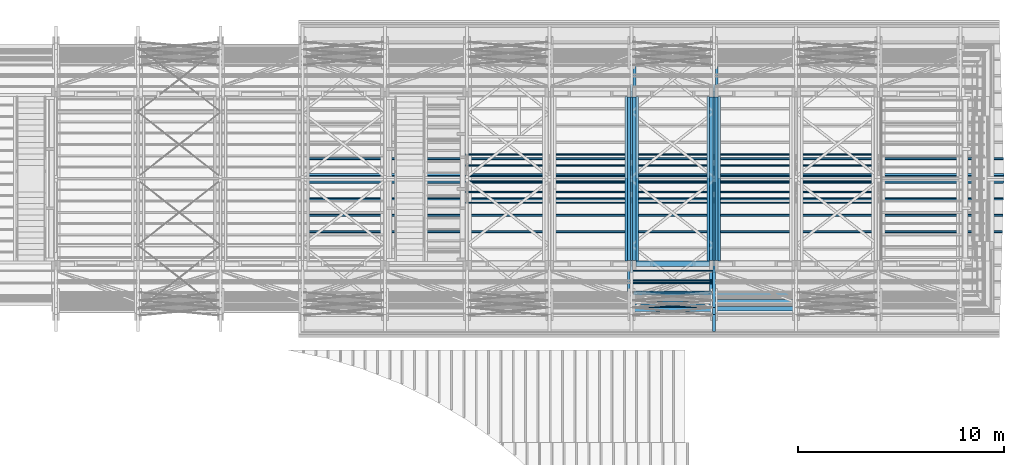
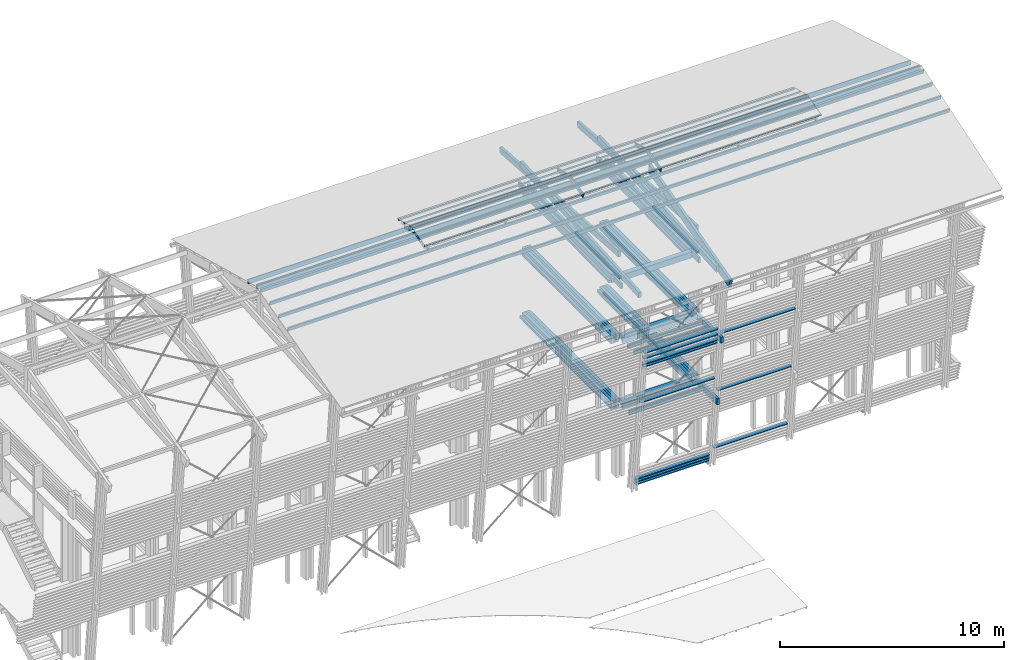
# One storey, part 18 of 48: 76 beams.
"""IFC2X3 building model written with IfcOpenShell, lengths in metres."""

import ifcopenshell
import ifcopenshell.guid

model = None  # the IFC model being written
_history = None  # IfcOwnerHistory: only IFC2X3 demands one
_inside = {}  # id of a spatial element -> (the spatial element, [elements in it])
_under = {}  # id of a project, library or spatial element -> (it, [spatial elements below it])
_declared = {}  # id of a project -> (the project, [libraries it declares])
_typed = {}  # id of a type object -> (the type object, [elements of that type])
_made_of = {}  # id of a material, layer set ... -> (it, [elements and type objects made of it])


def new_model(schema):
    """Start an empty IFC model of exactly this schema.

    Asked for "IFC4X3", IfcOpenShell would pick the latest addendum, in which some entities
    have other attributes; the version numbers below select the first issue.
    IFC2X3 requires an IfcOwnerHistory on every rooted entity: one is made here for all.
    """
    global model, _history
    if schema == "IFC4X3":
        model = ifcopenshell.file(schema_version=(4, 3, 0, 0))
    else:
        model = ifcopenshell.file(schema=schema)
    _inside.clear()
    _under.clear()
    _declared.clear()
    _typed.clear()
    _made_of.clear()
    _history = None
    if model.schema == "IFC2X3":
        org = make("IfcOrganization", Name="unknown")
        user = make(
            "IfcPersonAndOrganization",
            ThePerson=make("IfcPerson", FamilyName="unknown"),
            TheOrganization=org,
        )
        app = make(
            "IfcApplication",
            ApplicationDeveloper=org,
            Version="unknown",
            ApplicationFullName="unknown",
            ApplicationIdentifier="unknown",
        )
        _history = make(
            "IfcOwnerHistory",
            OwningUser=user,
            OwningApplication=app,
            ChangeAction="ADDED",
            CreationDate=0,
        )
    return model


def make(cls, **values):
    """One entity of the class cls with the attributes given. An attribute that is None is left unset."""
    return model.create_entity(
        cls, **{name: value for name, value in values.items() if value is not None}
    )


def rooted(cls, **values):
    """An entity with a GlobalId (a new one), such as an element, a storey or a relation."""
    return make(cls, GlobalId=ifcopenshell.guid.new(), OwnerHistory=_history, **values)


def si_unit(unit_type, name, prefix=None):
    """IfcSIUnit, for example si_unit("LENGTHUNIT", "METRE", prefix="MILLI")."""
    return make("IfcSIUnit", UnitType=unit_type, Prefix=prefix, Name=name)


def assignment(units):
    """IfcUnitAssignment: the units of a project."""
    return None if units is None else make("IfcUnitAssignment", Units=units)


def point(xyz):
    """IfcCartesianPoint."""
    return None if xyz is None else make("IfcCartesianPoint", Coordinates=xyz)


def direction(xyz):
    """IfcDirection."""
    return None if xyz is None else make("IfcDirection", DirectionRatios=xyz)


def frame(location, z_axis=None, x_axis=None):
    """IfcAxis2Placement3D, a coordinate frame: its origin and axes. An axis left out is left unset."""
    return make(
        "IfcAxis2Placement3D",
        Location=point(location),
        Axis=direction(z_axis),
        RefDirection=direction(x_axis),
    )


def origin_with_axes():
    """The frame at (0, 0, 0) with the z axis (0, 0, 1) and the x axis (1, 0, 0) written out."""
    return frame((0.0, 0.0, 0.0), z_axis=(0.0, 0.0, 1.0), x_axis=(1.0, 0.0, 0.0))


def place(relative_to, where):
    """IfcLocalPlacement: puts the frame where relative to a parent placement (None: the world)."""
    return make(
        "IfcLocalPlacement", PlacementRelTo=relative_to, RelativePlacement=where
    )


def context(
    kind, dimensions, precision=None, world=None, true_north=None, identifier=None
):
    """IfcGeometricRepresentationContext, for example the 3D "Model" context."""
    return make(
        "IfcGeometricRepresentationContext",
        ContextIdentifier=identifier,
        ContextType=kind,
        CoordinateSpaceDimension=dimensions,
        Precision=precision,
        WorldCoordinateSystem=world,
        TrueNorth=true_north,
    )


def subcontext(parent, identifier, kind, view, scale=None):
    """IfcGeometricRepresentationSubContext, for example "Body" below "Model"."""
    return make(
        "IfcGeometricRepresentationSubContext",
        ContextIdentifier=identifier,
        ContextType=kind,
        ParentContext=parent,
        TargetScale=scale,
        TargetView=view,
    )


def project(units=None, contexts=None):
    """IfcProject with its units and contexts."""
    return rooted(
        "IfcProject",
        Name="project",
        RepresentationContexts=contexts,
        UnitsInContext=assignment(units),
    )


def spatial(cls, under=None, at=None, **own):
    """A site, building, storey or space (cls), placed at a placement, below another one or the project."""
    s = rooted(cls, ObjectPlacement=at, **own)
    if under is not None:
        _under.setdefault(under.id(), (under, []))[1].append(s)
    return s


def faces_of(points, faces, orient=None, outer=None):
    """IfcFace entities. A face is a list of loops; a loop is a list of indices into points, from 0.

    orient and outer hold one flag for each loop. By default every Orientation is true, the
    first loop of a face is its IfcFaceOuterBound and the others are IfcFaceBound.
    """
    made = []
    for i, loops in enumerate(faces):
        bounds = []
        for j, loop in enumerate(loops):
            is_outer = j == 0 if outer is None else outer[i][j]
            bounds.append(
                make(
                    "IfcFaceOuterBound" if is_outer else "IfcFaceBound",
                    Bound=make("IfcPolyLoop", Polygon=[points[k] for k in loop]),
                    Orientation=True if orient is None else orient[i][j],
                )
            )
        made.append(make("IfcFace", Bounds=bounds))
    return made


def faceted_brep(points, faces, orient=None, outer=None, voids=None):
    """IfcFacetedBrep: a solid bounded by flat faces; with voids (closed shells), ...WithVoids."""
    shared = [point(p) for p in points]
    hull = make("IfcClosedShell", CfsFaces=faces_of(shared, faces, orient, outer))
    if voids is None:
        return make("IfcFacetedBrep", Outer=hull)
    return make(
        "IfcFacetedBrepWithVoids",
        Outer=hull,
        Voids=[
            make(cls, CfsFaces=faces_of(shared, fs, o, b)) for cls, fs, o, b in voids
        ],
    )


def shape(context_of_items, identifier, shape_type, items):
    """IfcShapeRepresentation: the items that make up one representation, for example the "Body"."""
    return make(
        "IfcShapeRepresentation",
        ContextOfItems=context_of_items,
        RepresentationIdentifier=identifier,
        RepresentationType=shape_type,
        Items=items,
    )


def material(Name=None, Category=None):
    """IfcMaterial."""
    return make("IfcMaterial", Name=Name, Category=Category)


def made_of(thing, what):
    """Note that an element or type object is made of a material, layer set ...; save() writes the relation."""
    if what is not None:
        _made_of.setdefault(what.id(), (what, []))[1].append(thing)
    return thing


def element(
    cls,
    number,
    at=None,
    inside=None,
    cuts=None,
    type_object=None,
    material=None,
    context=None,
    identifier="Body",
    shape_type=None,
    held_by="IfcProductDefinitionShape",
    body=None,
    shapes=None,
    **own,
):
    """One element of the class cls, such as IfcWall. Its Tag is "e" and its number.

    at: its placement. inside: the storey or other place that contains it. cuts: it is an
    opening in that element (IfcRelVoidsElement). A single representation is given by context,
    identifier, shape_type and body (its items); several are given by shapes. held_by: the class
    of the entity that holds the representations. save() writes the other relations.
    """
    e = rooted(cls, Tag="e%d" % number, ObjectPlacement=at, **own)
    if body is not None:
        shapes = [shape(context, identifier, shape_type, body)]
    if shapes is not None:
        e.Representation = make(held_by, Representations=shapes)
    if inside is not None:
        _inside.setdefault(inside.id(), (inside, []))[1].append(e)
    if cuts is not None:
        rooted(
            "IfcRelVoidsElement", RelatingBuildingElement=cuts, RelatedOpeningElement=e
        )
    if type_object is not None:
        _typed.setdefault(type_object.id(), (type_object, []))[1].append(e)
    return made_of(e, material)


def aggregate(whole, parts):
    """IfcRelAggregates: a whole, such as a stair, and the parts it consists of."""
    return rooted("IfcRelAggregates", RelatingObject=whole, RelatedObjects=parts)


def save(model, path):
    """Write the relations noted so far, then the file.

    IfcRelAggregates (storeys below a building ...), IfcRelContainedInSpatialStructure (elements
    in a storey), IfcRelDefinesByType, IfcRelAssociatesMaterial and IfcRelDeclares: one each for
    every whole, place, type object, material and project.
    """
    for whole, parts in _under.values():
        aggregate(whole, parts)
    for where, things in _inside.values():
        rooted(
            "IfcRelContainedInSpatialStructure",
            RelatedElements=things,
            RelatingStructure=where,
        )
    for kind, things in _typed.values():
        rooted("IfcRelDefinesByType", RelatedObjects=things, RelatingType=kind)
    for what, things in _made_of.values():
        rooted("IfcRelAssociatesMaterial", RelatedObjects=things, RelatingMaterial=what)
    for by, libraries in _declared.values():
        rooted("IfcRelDeclares", RelatingContext=by, RelatedDefinitions=libraries)
    model.write(path)


model = new_model("IFC2X3")

# Units and contexts
model_context = context("Model", 3, precision=1e-06, world=origin_with_axes(), true_north=direction((0.0, 1.0, 0.0)))
body_context = subcontext(model_context, "Body", "Model", "MODEL_VIEW")
ifc_project = project(units=[si_unit("LENGTHUNIT", "METRE"), si_unit("AREAUNIT", "SQUARE_METRE"), si_unit("VOLUMEUNIT", "CUBIC_METRE"), si_unit("PLANEANGLEUNIT", "RADIAN")], contexts=[model_context])

# Site, building, storey
site_placement = place(None, origin_with_axes())
site = spatial("IfcSite", under=ifc_project, at=site_placement, CompositionType="ELEMENT")
building_placement = place(site_placement, origin_with_axes())
building = spatial("IfcBuilding", under=site, at=building_placement, Name="Building 1", CompositionType="ELEMENT")
storey_placement = place(building_placement, origin_with_axes())
storey = spatial("IfcBuildingStorey", under=building, at=storey_placement, Name="Storey 1", CompositionType="ELEMENT", Elevation=0.0)

# Beams
ifc_material_1 = material(Name="GL28h")
beam_1_placement = place(storey_placement, frame((57.4897437, -184.6264881, 10.77), z_axis=(0.0, 0.0, 1.0), x_axis=(0.0, -1.0, 0.0)))
element("IfcBeam", 1, at=beam_1_placement, inside=storey, material=ifc_material_1, Name="Sommier", context=body_context, shape_type="Brep", body=[
    faceted_brep([(9.1631634, 0.05, -0.15), (9.1631634, 0.05, 0.15), (9.1631634, -0.05, 0.15), (9.1631634, -0.05, -0.15), (0.0, 0.05, 0.15), (0.0, 0.05, -0.15), (0.0, -0.05, -0.15), (0.0, -0.05, 0.15)], [[[0, 1, 2, 3]], [[4, 5, 6, 7]], [[3, 6, 5, 0]], [[2, 7, 6, 3]], [[1, 4, 7, 2]], [[0, 5, 4, 1]]]),
])
beam_2_placement = place(storey_placement, frame((53.4897437, -190.3622807, 13.6093897), z_axis=(0.0, -0.258819, 0.9659258), x_axis=(0.0, 0.9659258, 0.258819)))
element("IfcBeam", 2, at=beam_2_placement, inside=storey, material=ifc_material_1, Name="Arbalétrier", context=body_context, shape_type="Brep", body=[
    faceted_brep([(0.0, -0.035, -0.11), (0.0, -0.035, 0.11), (0.0, 0.035, 0.11), (0.0, 0.035, -0.11), (1.2244015, -0.035, 0.11), (1.2244015, 0.035, 0.11), (1.1654527, -0.035, -0.11), (1.1654527, 0.035, -0.11)], [[[0, 1, 2, 3]], [[2, 1, 4, 5]], [[1, 0, 6, 4]], [[7, 5, 4, 6]], [[0, 3, 7, 6]], [[3, 2, 5, 7]]]),
])
beam_3_placement = place(storey_placement, frame((71.5219094, -191.7955114, 12.8318429), z_axis=(0.0, -0.258819, 0.9659258), x_axis=(-1.0, 0.0, 0.0)))
element("IfcBeam", 3, at=beam_3_placement, inside=storey, material=ifc_material_1, Name="pannes", context=body_context, shape_type="Brep", body=[
    faceted_brep([(0.0019346, 0.035, -0.11), (0.0, -0.035, -0.11), (0.0016292, -0.035, 0.11), (0.0035637, 0.035, 0.11), (34.1021657, -0.035, -0.11), (34.1021657, -0.035, 0.11), (34.1021657, 0.035, -0.11), (34.1021657, 0.035, 0.11)], [[[0, 1, 2, 3]], [[2, 1, 4, 5]], [[1, 0, 6, 4]], [[0, 3, 7, 6]], [[3, 2, 5, 7]], [[5, 4, 6, 7]]]),
])
beam_4_placement = place(storey_placement, frame((71.5449862, -190.9889633, 13.0479568), z_axis=(0.0, -0.258819, 0.9659258), x_axis=(-1.0, 0.0, 0.0)))
element("IfcBeam", 4, at=beam_4_placement, inside=storey, material=ifc_material_1, Name="pannes", context=body_context, shape_type="Brep", body=[
    faceted_brep([(0.0019346, 0.035, -0.11), (0.0, -0.035, -0.11), (0.0016292, -0.035, 0.11), (0.0035637, 0.035, 0.11), (34.1252425, -0.035, -0.11), (34.1252425, -0.035, 0.11), (34.1252425, 0.035, -0.11), (34.1252425, 0.035, 0.11)], [[[0, 1, 2, 3]], [[2, 1, 4, 5]], [[1, 0, 6, 4]], [[0, 3, 7, 6]], [[3, 2, 5, 7]], [[5, 4, 6, 7]]]),
])
beam_5_placement = place(storey_placement, frame((71.5680629, -190.1824153, 13.2640707), z_axis=(0.0, -0.258819, 0.9659258), x_axis=(-1.0, 0.0, 0.0)))
element("IfcBeam", 5, at=beam_5_placement, inside=storey, material=ifc_material_1, Name="pannes", context=body_context, shape_type="Brep", body=[
    faceted_brep([(0.0019346, 0.035, -0.11), (0.0, -0.035, -0.11), (0.0016292, -0.035, 0.11), (0.0035637, 0.035, 0.11), (34.1483192, -0.035, -0.11), (34.1483192, -0.035, 0.11), (34.1483192, 0.035, -0.11), (34.1483192, 0.035, 0.11)], [[[0, 1, 2, 3]], [[2, 1, 4, 5]], [[1, 0, 6, 4]], [[0, 3, 7, 6]], [[3, 2, 5, 7]], [[5, 4, 6, 7]]]),
])
for number, where, z_axis, x_axis in (
    (6, (45.2797441, -190.376197, 13.7609523), (0.0, -0.258819, 0.9659258), (1.0, 0.0, 0.0)),
    (7, (45.2797441, -189.3391633, 14.0388246), (0.0, -0.258819, 0.9659258), (1.0, 0.0, 0.0)),
):
    element("IfcBeam", number, at=place(storey_placement, frame(where, z_axis=z_axis, x_axis=x_axis)), inside=storey, material=ifc_material_1, Name="carrelet", context=body_context, shape_type="Brep", body=[
        faceted_brep([(20.42, -0.025, -0.04), (20.42, -0.025, 0.04), (0.0, -0.025, 0.04), (0.0, -0.025, -0.04), (20.42, 0.025, -0.04), (0.0, 0.025, -0.04), (20.42, 0.025, 0.04), (0.0, 0.025, 0.04)], [[[0, 1, 2, 3]], [[4, 0, 3, 5]], [[6, 4, 5, 7]], [[1, 6, 7, 2]], [[1, 0, 4, 6]], [[2, 7, 5, 3]]]),
    ])
beam_6_placement = place(storey_placement, frame((45.2797441, -188.5584594, 13.8998884), z_axis=(0.0, 0.258819, 0.9659258), x_axis=(1.0, 0.0, 0.0)))
element("IfcBeam", 8, at=beam_6_placement, inside=storey, material=ifc_material_1, Name="carrelet", context=body_context, shape_type="Brep", body=[
    faceted_brep([(20.42, 0.025, 0.04), (20.42, 0.025, -0.04), (0.0, 0.025, -0.04), (0.0, 0.025, 0.04), (20.42, -0.025, -0.04), (0.0, -0.025, -0.04), (20.42, -0.025, 0.04), (0.0, -0.025, 0.04)], [[[0, 1, 2, 3]], [[1, 4, 5, 2]], [[4, 6, 7, 5]], [[6, 0, 3, 7]], [[1, 0, 6, 4]], [[7, 3, 2, 5]]]),
])
beam_7_placement = place(storey_placement, frame((71.5680629, -188.2337243, 13.2640707), z_axis=(0.0, 0.258819, 0.9659258), x_axis=(-1.0, 0.0, 0.0)))
element("IfcBeam", 9, at=beam_7_placement, inside=storey, material=ifc_material_1, Name="pannes", context=body_context, shape_type="Brep", body=[
    faceted_brep([(0.0016292, 0.035, 0.11), (0.0, 0.035, -0.11), (0.0019346, -0.035, -0.11), (0.0035637, -0.035, 0.11), (34.1483192, 0.035, -0.11), (34.1483192, -0.035, -0.11), (34.1483192, 0.035, 0.11), (34.1483192, -0.035, 0.11)], [[[0, 1, 2, 3]], [[2, 1, 4, 5]], [[1, 0, 6, 4]], [[0, 3, 7, 6]], [[3, 2, 5, 7]], [[4, 6, 7, 5]]]),
])
beam_8_placement = place(storey_placement, frame((71.6010389, -189.0395404, 13.4799884), z_axis=(0.0, 0.258819, 0.9659258), x_axis=(-1.0, 0.0, 0.0)))
element("IfcBeam", 10, at=beam_8_placement, inside=storey, material=ifc_material_1, Name="pannes", context=body_context, shape_type="Brep", body=[
    faceted_brep([(0.0016292, -0.045, -0.11), (0.0, -0.045, 0.11), (0.0024873, 0.045, 0.11), (0.0041165, 0.045, -0.11), (34.1812952, -0.045, 0.11), (34.1812952, 0.045, 0.11), (34.1812952, -0.045, -0.11), (34.1812952, 0.045, -0.11)], [[[0, 1, 2, 3]], [[2, 1, 4, 5]], [[1, 0, 6, 4]], [[0, 3, 7, 6]], [[3, 2, 5, 7]], [[5, 4, 6, 7]]]),
])
beam_9_placement = place(storey_placement, frame((71.5913951, -189.3765991, 13.4799884), z_axis=(0.0, -0.258819, 0.9659258), x_axis=(-1.0, 0.0, 0.0)))
element("IfcBeam", 11, at=beam_9_placement, inside=storey, material=ifc_material_1, Name="pannes", context=body_context, shape_type="Brep", body=[
    faceted_brep([(0.0, -0.045, -0.11), (0.0016292, -0.045, 0.11), (0.0041165, 0.045, 0.11), (0.0024873, 0.045, -0.11), (34.1716514, -0.045, 0.11), (34.1716514, 0.045, 0.11), (34.1716514, -0.045, -0.11), (34.1716514, 0.045, -0.11)], [[[0, 1, 2, 3]], [[2, 1, 4, 5]], [[1, 0, 6, 4]], [[0, 3, 7, 6]], [[3, 2, 5, 7]], [[5, 4, 6, 7]]]),
])
beam_10_placement = place(storey_placement, frame((45.2797441, -189.8576801, 13.8998884), z_axis=(0.0, -0.258819, 0.9659258), x_axis=(1.0, 0.0, 0.0)))
element("IfcBeam", 12, at=beam_10_placement, inside=storey, material=ifc_material_1, Name="carrelet", context=body_context, shape_type="Brep", body=[
    faceted_brep([(20.42, -0.025, -0.04), (20.42, -0.025, 0.04), (0.0, -0.025, 0.04), (0.0, -0.025, -0.04), (20.42, 0.025, -0.04), (0.0, 0.025, -0.04), (20.42, 0.025, 0.04), (0.0, 0.025, 0.04)], [[[0, 1, 2, 3]], [[4, 0, 3, 5]], [[6, 4, 5, 7]], [[1, 6, 7, 2]], [[1, 0, 4, 6]], [[2, 7, 5, 3]]]),
])
beam_11_placement = place(storey_placement, frame((57.2197437, -189.2071519, 10.8200184), z_axis=(0.0, -0.0149983, 0.9998875), x_axis=(0.0, -0.9998875, -0.0149983)))
element("IfcBeam", 13, at=beam_11_placement, inside=storey, material=ifc_material_1, Name="Sous-glace", context=body_context, shape_type="Brep", body=[
    faceted_brep([(4.0020498, -0.06, 0.06), (4.0038498, -0.06, -0.06), (4.0038498, 0.06, -0.06), (4.0020498, 0.06, 0.06), (0.0018, -0.06, -0.06), (0.0018, 0.06, -0.06), (0.0, -0.06, 0.06), (0.0, 0.06, 0.06)], [[[0, 1, 2, 3]], [[2, 1, 4, 5]], [[1, 0, 6, 4]], [[5, 4, 6, 7]], [[3, 2, 5, 7]], [[0, 3, 7, 6]]]),
])
beam_12_placement = place(storey_placement, frame((45.2797441, -188.0399426, 13.7609523), z_axis=(0.0, 0.258819, 0.9659258), x_axis=(1.0, 0.0, 0.0)))
element("IfcBeam", 14, at=beam_12_placement, inside=storey, material=ifc_material_1, Name="carrelet", context=body_context, shape_type="Brep", body=[
    faceted_brep([(20.42, 0.025, 0.04), (20.42, 0.025, -0.04), (0.0, 0.025, -0.04), (0.0, 0.025, 0.04), (20.42, -0.025, -0.04), (0.0, -0.025, -0.04), (20.42, -0.025, 0.04), (0.0, -0.025, 0.04)], [[[0, 1, 2, 3]], [[1, 4, 5, 2]], [[4, 6, 7, 5]], [[6, 0, 3, 7]], [[1, 0, 6, 4]], [[7, 3, 2, 5]]]),
])
for number, where, z_axis, x_axis, name in (
    (15, (57.7597437, -189.2071519, 10.820019), (0.0, -0.0149983, 0.9998875), (0.0, -0.9998875, -0.0149983), "Sous-glace"),
    (16, (53.2197437, -189.2071519, 10.820019), (0.0, -0.0149983, 0.9998875), (0.0, -0.9998875, -0.0149983), "Sous-glace"),
    (17, (53.7597437, -189.2071519, 10.8200195), (0.0, -0.0149983, 0.9998875), (0.0, -0.9998875, -0.0149983), "Sous-glace"),
):
    element("IfcBeam", number, at=place(storey_placement, frame(where, z_axis=z_axis, x_axis=x_axis)), inside=storey, material=ifc_material_1, Name=name, context=body_context, shape_type="Brep", body=[
        faceted_brep([(4.0020498, -0.06, 0.06), (4.0038498, -0.06, -0.06), (4.0038498, 0.06, -0.06), (4.0020498, 0.06, 0.06), (0.0018, -0.06, -0.06), (0.0018, 0.06, -0.06), (0.0, -0.06, 0.06), (0.0, 0.06, 0.06)], [[[0, 1, 2, 3]], [[2, 1, 4, 5]], [[1, 0, 6, 4]], [[5, 4, 6, 7]], [[3, 2, 5, 7]], [[0, 3, 7, 6]]]),
    ])
ifc_material_2 = material(Name="Moabi")
beam_13_placement = place(storey_placement, frame((61.3927441, -194.8264764, 1.1905332), z_axis=(0.0, 0.9945219, 0.1045285), x_axis=(-1.0, 0.0, 0.0)))
element("IfcBeam", 18, at=beam_13_placement, inside=storey, material=ifc_material_2, Name="garde corp", context=body_context, shape_type="Brep", body=[
    faceted_brep([(3.806, 0.02, -0.1), (3.806, -0.02, -0.1), (0.0, -0.02, -0.1), (0.0, 0.02, -0.1), (3.806, -0.02, 0.1), (0.0, -0.02, 0.1), (3.806, 0.02, 0.1), (0.0, 0.02, 0.1)], [[[0, 1, 2, 3]], [[1, 4, 5, 2]], [[4, 6, 7, 5]], [[6, 0, 3, 7]], [[1, 0, 6, 4]], [[7, 3, 2, 5]]]),
])
beam_14_placement = place(storey_placement, frame((61.3927439, -195.177692, 4.5321268), z_axis=(0.0, 0.9945219, 0.1045285), x_axis=(-1.0, 0.0, 0.0)))
element("IfcBeam", 19, at=beam_14_placement, inside=storey, material=ifc_material_2, Name="garde corp", context=body_context, shape_type="Brep", body=[
    faceted_brep([(3.8047069, 0.02, -0.1), (3.8047071, -0.02, -0.1), (0.0, -0.02, -0.1), (0.0, 0.02, -0.1), (3.8047069, -0.02, 0.1), (0.0, -0.02, 0.1), (3.8047071, 0.02, 0.1), (0.0, 0.02, 0.1)], [[[0, 1, 2, 3]], [[1, 4, 5, 2]], [[4, 6, 7, 5]], [[6, 0, 3, 7]], [[1, 0, 6, 4]], [[7, 3, 2, 5]]]),
])
beam_15_placement = place(storey_placement, frame((61.3927441, -195.5289077, 7.8737203), z_axis=(0.0, 0.9945219, 0.1045285), x_axis=(-1.0, 0.0, 0.0)))
element("IfcBeam", 20, at=beam_15_placement, inside=storey, material=ifc_material_2, Name="garde corp", context=body_context, shape_type="Brep", body=[
    faceted_brep([(3.806, 0.02, -0.1), (3.806, -0.02, -0.1), (0.0, -0.02, -0.1), (0.0, 0.02, -0.1), (3.806, -0.02, 0.1), (0.0, -0.02, 0.1), (3.806, 0.02, 0.1), (0.0, 0.02, 0.1)], [[[0, 1, 2, 3]], [[1, 4, 5, 2]], [[4, 6, 7, 5]], [[6, 0, 3, 7]], [[1, 0, 6, 4]], [[7, 3, 2, 5]]]),
])
beam_16_placement = place(storey_placement, frame((45.2797441, -189.0777892, 14.0388246), z_axis=(0.0, 0.258819, 0.9659258), x_axis=(1.0, 0.0, 0.0)))
element("IfcBeam", 21, at=beam_16_placement, inside=storey, material=ifc_material_1, Name="carrelet", context=body_context, shape_type="Brep", body=[
    faceted_brep([(20.42, 0.025, 0.04), (20.42, 0.025, -0.04), (0.0, 0.025, -0.04), (0.0, 0.025, 0.04), (20.42, -0.025, -0.04), (0.0, -0.025, -0.04), (20.42, -0.025, 0.04), (0.0, -0.025, 0.04)], [[[0, 1, 2, 3]], [[1, 4, 5, 2]], [[4, 6, 7, 5]], [[6, 0, 3, 7]], [[1, 0, 6, 4]], [[7, 3, 2, 5]]]),
])
beam_17_placement = place(storey_placement, frame((53.4897437, -184.6264881, 10.77), z_axis=(0.0, 0.0, 1.0), x_axis=(0.0, -1.0, 0.0)))
element("IfcBeam", 22, at=beam_17_placement, inside=storey, material=ifc_material_1, Name="Sommier", context=body_context, shape_type="Brep", body=[
    faceted_brep([(9.1631634, 0.05, -0.15), (9.1631634, 0.05, 0.15), (9.1631634, -0.05, 0.15), (9.1631634, -0.05, -0.15), (0.0, 0.05, 0.15), (0.0, 0.05, -0.15), (0.0, -0.05, -0.15), (0.0, -0.05, 0.15)], [[[0, 1, 2, 3]], [[4, 5, 6, 7]], [[3, 6, 5, 0]], [[2, 7, 6, 3]], [[1, 4, 7, 2]], [[0, 5, 4, 1]]]),
])
beam_18_placement = place(storey_placement, frame((57.3597437, -185.2264881, 10.87), z_axis=(0.0, 0.0, 1.0), x_axis=(0.0, -1.0, 0.0)))
element("IfcBeam", 23, at=beam_18_placement, inside=storey, material=ifc_material_1, Name="Sommier", context=body_context, shape_type="Brep", body=[
    faceted_brep([(7.9631634, 0.08, 0.23), (7.9631634, 0.08, -0.23), (0.0, 0.08, -0.23), (0.0, 0.08, 0.23), (0.0, -0.08, -0.23), (0.0, -0.08, 0.23), (7.9631634, -0.08, -0.23), (7.9631634, -0.08, 0.23)], [[[0, 1, 2, 3]], [[2, 4, 5, 3]], [[6, 7, 5, 4]], [[1, 6, 4, 2]], [[7, 6, 1, 0]], [[7, 0, 3, 5]]]),
])
beam_19_placement = place(storey_placement, frame((53.4897437, -185.2264881, 7.365), z_axis=(0.0, 0.0, 1.0), x_axis=(0.0, -1.0, 0.0)))
element("IfcBeam", 24, at=beam_19_placement, inside=storey, material=ifc_material_1, Name="Sommier", context=body_context, shape_type="Brep", body=[
    faceted_brep([(0.0, -0.05, -0.05), (0.0, -0.05, 0.05), (0.0, 0.05, 0.05), (0.0, 0.05, -0.05), (7.9631634, -0.05, 0.05), (7.9631634, 0.05, 0.05), (7.9631634, -0.05, -0.05), (7.9631634, 0.05, -0.05)], [[[0, 1, 2, 3]], [[2, 1, 4, 5]], [[1, 0, 6, 4]], [[5, 4, 6, 7]], [[3, 2, 5, 7]], [[0, 3, 7, 6]]]),
])
beam_20_placement = place(storey_placement, frame((57.4897437, -193.1896515, 7.649), z_axis=(0.0, 0.0, 1.0), x_axis=(0.0, -1.0, 0.0)))
element("IfcBeam", 25, at=beam_20_placement, inside=storey, material=ifc_material_1, Name="Sommier Coursive", context=body_context, shape_type="Brep", body=[
    faceted_brep([(0.0, -0.05, -0.16), (0.44, -0.05, -0.16), (0.44, -0.05, 0.16), (0.0, -0.05, 0.16), (0.44, -0.07, -0.16), (0.44, -0.07, 0.16), (0.0, 0.05, 0.16), (0.0, 0.05, -0.16), (2.6285375, -0.07, 0.16), (2.6285375, 0.07, 0.16), (0.44, 0.07, 0.16), (0.44, 0.05, 0.16), (0.44, 0.05, -0.16), (0.44, 0.07, -0.16), (2.6285375, -0.07, -0.16), (2.6285375, 0.07, -0.16)], [[[0, 1, 2, 3]], [[1, 4, 5, 2]], [[0, 3, 6, 7]], [[3, 2, 5, 8, 9, 10, 11, 6]], [[6, 11, 12, 7]], [[11, 10, 13, 12]], [[5, 4, 14, 8]], [[1, 0, 7, 12, 13, 15, 14, 4]], [[13, 10, 9, 15]], [[9, 8, 14, 15]]]),
])
beam_21_placement = place(storey_placement, frame((53.5597437, -194.1646515, 7.699), z_axis=(0.0, 0.0, 1.0), x_axis=(1.0, 0.0, 0.0)))
element("IfcBeam", 26, at=beam_21_placement, inside=storey, material=ifc_material_1, Name="Solive", context=body_context, shape_type="Brep", body=[
    faceted_brep([(3.86, 0.035, 0.11), (3.86, 0.035, -0.11), (0.0, 0.035, -0.11), (0.0, 0.035, 0.11), (3.86, -0.035, -0.11), (0.0, -0.035, -0.11), (3.86, -0.035, 0.11), (0.0, -0.035, 0.11)], [[[0, 1, 2, 3]], [[1, 4, 5, 2]], [[4, 6, 7, 5]], [[6, 0, 3, 7]], [[1, 0, 6, 4]], [[7, 3, 2, 5]]]),
])
beam_22_placement = place(storey_placement, frame((53.4897437, -185.2264881, 4.165), z_axis=(0.0, 0.0, 1.0), x_axis=(0.0, -1.0, 0.0)))
element("IfcBeam", 27, at=beam_22_placement, inside=storey, material=ifc_material_1, Name="Sommier", context=body_context, shape_type="Brep", body=[
    faceted_brep([(0.0, -0.05, -0.05), (0.0, -0.05, 0.05), (0.0, 0.05, 0.05), (0.0, 0.05, -0.05), (7.9631634, -0.05, 0.05), (7.9631634, 0.05, 0.05), (7.9631634, -0.05, -0.05), (7.9631634, 0.05, -0.05)], [[[0, 1, 2, 3]], [[2, 1, 4, 5]], [[1, 0, 6, 4]], [[5, 4, 6, 7]], [[3, 2, 5, 7]], [[0, 3, 7, 6]]]),
])
for number, where, z_axis, x_axis in (
    (28, (53.5597437, -194.7346515, 7.699), (0.0, 0.0, 1.0), (1.0, 0.0, 0.0)),
    (29, (53.5597437, -193.6846515, 7.699), (0.0, 0.0, 1.0), (1.0, 0.0, 0.0)),
    (30, (53.5597437, -194.2816702, 4.139), (0.0, 0.0, 1.0), (1.0, 0.0, 0.0)),
    (31, (53.5597437, -193.6846515, 4.139), (0.0, 0.0, 1.0), (1.0, 0.0, 0.0)),
):
    element("IfcBeam", number, at=place(storey_placement, frame(where, z_axis=z_axis, x_axis=x_axis)), inside=storey, material=ifc_material_1, Name="Solive", context=body_context, shape_type="Brep", body=[
        faceted_brep([(3.86, 0.035, 0.11), (3.86, 0.035, -0.11), (0.0, 0.035, -0.11), (0.0, 0.035, 0.11), (3.86, -0.035, -0.11), (0.0, -0.035, -0.11), (3.86, -0.035, 0.11), (0.0, -0.035, 0.11)], [[[0, 1, 2, 3]], [[1, 4, 5, 2]], [[4, 6, 7, 5]], [[6, 0, 3, 7]], [[1, 0, 6, 4]], [[7, 3, 2, 5]]]),
    ])
beam_23_placement = place(storey_placement, frame((53.6197437, -185.2264881, 10.87), z_axis=(0.0, 0.0, 1.0), x_axis=(0.0, -1.0, 0.0)))
element("IfcBeam", 32, at=beam_23_placement, inside=storey, material=ifc_material_1, Name="Sommier", context=body_context, shape_type="Brep", body=[
    faceted_brep([(7.9631634, 0.08, 0.23), (7.9631634, 0.08, -0.23), (0.0, 0.08, -0.23), (0.0, 0.08, 0.23), (0.0, -0.08, -0.23), (0.0, -0.08, 0.23), (7.9631634, -0.08, -0.23), (7.9631634, -0.08, 0.23)], [[[0, 1, 2, 3]], [[2, 4, 5, 3]], [[6, 7, 5, 4]], [[1, 6, 4, 2]], [[7, 6, 1, 0]], [[7, 0, 3, 5]]]),
])
for number, where, z_axis, x_axis, name in (
    (33, (53.7597437, -185.2064881, 4.015), (0.0, 0.0, 1.0), (0.0, -1.0, 0.0), "Sous-glace"),
    (34, (57.2197437, -185.2064881, 7.575), (0.0, 0.0, 1.0), (0.0, -1.0, 0.0), "Sous-glace"),
    (35, (57.7597437, -185.2064881, 7.575), (0.0, 0.0, 1.0), (0.0, -1.0, 0.0), "Sous-glace"),
    (36, (53.7597437, -185.2064881, 7.575), (0.0, 0.0, 1.0), (0.0, -1.0, 0.0), "Sous-glace"),
    (37, (53.2197437, -185.2064881, 7.575), (0.0, 0.0, 1.0), (0.0, -1.0, 0.0), "Sous-glace"),
):
    element("IfcBeam", number, at=place(storey_placement, frame(where, z_axis=z_axis, x_axis=x_axis)), inside=storey, material=ifc_material_1, Name=name, context=body_context, shape_type="Brep", body=[
        faceted_brep([(0.0, -0.06, -0.06), (0.0, 0.06, -0.06), (8.0031634, 0.06, -0.06), (8.0031634, -0.06, -0.06), (0.0, 0.06, 0.06), (8.0031634, 0.06, 0.06), (0.0, -0.06, 0.06), (8.0031634, -0.06, 0.06)], [[[0, 1, 2, 3]], [[1, 4, 5, 2]], [[4, 6, 7, 5]], [[6, 0, 3, 7]], [[0, 6, 4, 1]], [[5, 7, 3, 2]]]),
    ])
beam_24_placement = place(storey_placement, frame((57.4897437, -193.1896515, 4.089), z_axis=(0.0, 0.0, 1.0), x_axis=(0.0, -1.0, 0.0)))
element("IfcBeam", 38, at=beam_24_placement, inside=storey, material=ifc_material_1, Name="Sommier Coursive", context=body_context, shape_type="Brep", body=[
    faceted_brep([(0.0, 0.05, 0.16), (0.44, 0.05, 0.16), (0.44, 0.05, -0.16), (0.0, 0.05, -0.16), (0.44, 0.07, 0.16), (0.44, 0.07, -0.16), (0.0, -0.05, 0.16), (0.44, -0.05, 0.16), (0.44, -0.07, 0.16), (2.2900003, -0.07, 0.16), (2.2900003, 0.07, 0.16), (0.0, -0.05, -0.16), (0.44, -0.05, -0.16), (0.44, -0.07, -0.16), (2.2900003, 0.07, -0.16), (2.2900003, -0.07, -0.16)], [[[0, 1, 2, 3]], [[1, 4, 5, 2]], [[4, 1, 0, 6, 7, 8, 9, 10]], [[0, 3, 11, 6]], [[11, 12, 7, 6]], [[12, 13, 8, 7]], [[2, 5, 14, 15, 13, 12, 11, 3]], [[8, 13, 15, 9]], [[5, 4, 10, 14]], [[10, 9, 15, 14]]]),
])
for number, where, z_axis, x_axis, name in (
    (39, (57.7597437, -185.2064881, 4.015), (0.0, 0.0, 1.0), (0.0, -1.0, 0.0), "Sous-glace"),
    (40, (57.2197437, -185.2064881, 4.015), (0.0, 0.0, 1.0), (0.0, -1.0, 0.0), "Sous-glace"),
    (41, (53.2197437, -185.2064881, 4.015), (0.0, 0.0, 1.0), (0.0, -1.0, 0.0), "Sous-glace"),
):
    element("IfcBeam", number, at=place(storey_placement, frame(where, z_axis=z_axis, x_axis=x_axis)), inside=storey, material=ifc_material_1, Name=name, context=body_context, shape_type="Brep", body=[
        faceted_brep([(0.0, -0.06, -0.06), (0.0, 0.06, -0.06), (8.0031634, 0.06, -0.06), (8.0031634, -0.06, -0.06), (0.0, 0.06, 0.06), (8.0031634, 0.06, 0.06), (0.0, -0.06, 0.06), (8.0031634, -0.06, 0.06)], [[[0, 1, 2, 3]], [[1, 4, 5, 2]], [[4, 6, 7, 5]], [[6, 0, 3, 7]], [[0, 6, 4, 1]], [[5, 7, 3, 2]]]),
    ])
beam_25_placement = place(storey_placement, frame((53.6297437, -182.7509358, 11.4619485), z_axis=(0.0, 0.070184, 0.9975341), x_axis=(0.0, -0.9975341, 0.070184)))
element("IfcBeam", 42, at=beam_25_placement, inside=storey, material=ifc_material_1, Name="Entrait", context=body_context, shape_type="Brep", body=[
    faceted_brep([(0.0, 0.07, 0.16), (0.0110373, 0.07, -0.16), (0.0110373, -0.07, -0.16), (0.0, -0.07, 0.16), (10.6243711, 0.07, -0.16), (10.6243711, -0.07, -0.16), (10.6243711, 0.07, 0.16), (10.6243711, -0.07, 0.16)], [[[0, 1, 2, 3]], [[2, 1, 4, 5]], [[1, 0, 6, 4]], [[5, 4, 6, 7]], [[3, 2, 5, 7]], [[0, 3, 7, 6]]]),
])
for number, where, z_axis, x_axis in (
    (43, (53.3597437, -185.2264881, 7.545), (0.0, 0.0, 1.0), (0.0, -1.0, 0.0)),
    (44, (53.3597437, -185.2264881, 10.87), (0.0, 0.0, 1.0), (0.0, -1.0, 0.0)),
    (45, (53.6197437, -185.2264881, 7.545), (0.0, 0.0, 1.0), (0.0, -1.0, 0.0)),
):
    element("IfcBeam", number, at=place(storey_placement, frame(where, z_axis=z_axis, x_axis=x_axis)), inside=storey, material=ifc_material_1, Name="Sommier", context=body_context, shape_type="Brep", body=[
        faceted_brep([(7.9631634, 0.08, 0.23), (7.9631634, 0.08, -0.23), (0.0, 0.08, -0.23), (0.0, 0.08, 0.23), (0.0, -0.08, -0.23), (0.0, -0.08, 0.23), (7.9631634, -0.08, -0.23), (7.9631634, -0.08, 0.23)], [[[0, 1, 2, 3]], [[2, 4, 5, 3]], [[6, 7, 5, 4]], [[1, 6, 4, 2]], [[7, 6, 1, 0]], [[7, 0, 3, 5]]]),
    ])
beam_26_placement = place(storey_placement, frame((57.3497437, -195.6652037, 11.4619485), z_axis=(0.0, -0.070184, 0.9975341), x_axis=(0.0, 0.9975341, 0.070184)))
element("IfcBeam", 46, at=beam_26_placement, inside=storey, material=ifc_material_1, Name="Entrait", context=body_context, shape_type="Brep", body=[
    faceted_brep([(0.0, 0.07, 0.16), (0.0110373, 0.07, -0.16), (0.0110373, -0.07, -0.16), (0.0, -0.07, 0.16), (10.6243711, 0.07, -0.16), (10.6243711, -0.07, -0.16), (10.6243711, 0.07, 0.16), (10.6243711, -0.07, 0.16)], [[[0, 1, 2, 3]], [[2, 1, 4, 5]], [[1, 0, 6, 4]], [[5, 4, 6, 7]], [[3, 2, 5, 7]], [[0, 3, 7, 6]]]),
])
beam_27_placement = place(storey_placement, frame((53.4897437, -185.2264881, 3.805), z_axis=(0.0, 0.0, 1.0), x_axis=(0.0, -1.0, 0.0)))
element("IfcBeam", 47, at=beam_27_placement, inside=storey, material=ifc_material_1, Name="Sommier", context=body_context, shape_type="Brep", body=[
    faceted_brep([(0.0, -0.05, -0.05), (0.0, -0.05, 0.05), (0.0, 0.05, 0.05), (0.0, 0.05, -0.05), (7.9631634, -0.05, 0.05), (7.9631634, 0.05, 0.05), (7.9631634, -0.05, -0.05), (7.9631634, 0.05, -0.05)], [[[0, 1, 2, 3]], [[2, 1, 4, 5]], [[1, 0, 6, 4]], [[5, 4, 6, 7]], [[3, 2, 5, 7]], [[0, 3, 7, 6]]]),
])
beam_28_placement = place(storey_placement, frame((53.3497437, -195.6652037, 11.4619485), z_axis=(0.0, -0.070184, 0.9975341), x_axis=(0.0, 0.9975341, 0.070184)))
element("IfcBeam", 48, at=beam_28_placement, inside=storey, material=ifc_material_1, Name="Entrait", context=body_context, shape_type="Brep", body=[
    faceted_brep([(0.0, 0.07, 0.16), (0.0110373, 0.07, -0.16), (0.0110373, -0.07, -0.16), (0.0, -0.07, 0.16), (10.6243711, 0.07, -0.16), (10.6243711, -0.07, -0.16), (10.6243711, 0.07, 0.16), (10.6243711, -0.07, 0.16)], [[[0, 1, 2, 3]], [[2, 1, 4, 5]], [[1, 0, 6, 4]], [[5, 4, 6, 7]], [[3, 2, 5, 7]], [[0, 3, 7, 6]]]),
])
beam_29_placement = place(storey_placement, frame((53.4897437, -185.2264881, 7.725), z_axis=(0.0, 0.0, 1.0), x_axis=(0.0, -1.0, 0.0)))
element("IfcBeam", 49, at=beam_29_placement, inside=storey, material=ifc_material_1, Name="Sommier", context=body_context, shape_type="Brep", body=[
    faceted_brep([(0.0, -0.05, -0.05), (0.0, -0.05, 0.05), (0.0, 0.05, 0.05), (0.0, 0.05, -0.05), (7.9631634, -0.05, 0.05), (7.9631634, 0.05, 0.05), (7.9631634, -0.05, -0.05), (7.9631634, 0.05, -0.05)], [[[0, 1, 2, 3]], [[2, 1, 4, 5]], [[1, 0, 6, 4]], [[5, 4, 6, 7]], [[3, 2, 5, 7]], [[0, 3, 7, 6]]]),
])
for number, where, z_axis, x_axis in (
    (50, (53.3597437, -185.2264881, 3.985), (0.0, 0.0, 1.0), (0.0, -1.0, 0.0)),
    (51, (57.6197437, -185.2264881, 7.545), (0.0, 0.0, 1.0), (0.0, -1.0, 0.0)),
    (52, (53.6197437, -185.2264881, 3.985), (0.0, 0.0, 1.0), (0.0, -1.0, 0.0)),
    (53, (57.3597437, -185.2264881, 7.545), (0.0, 0.0, 1.0), (0.0, -1.0, 0.0)),
):
    element("IfcBeam", number, at=place(storey_placement, frame(where, z_axis=z_axis, x_axis=x_axis)), inside=storey, material=ifc_material_1, Name="Sommier", context=body_context, shape_type="Brep", body=[
        faceted_brep([(7.9631634, 0.08, 0.23), (7.9631634, 0.08, -0.23), (0.0, 0.08, -0.23), (0.0, 0.08, 0.23), (0.0, -0.08, -0.23), (0.0, -0.08, 0.23), (7.9631634, -0.08, -0.23), (7.9631634, -0.08, 0.23)], [[[0, 1, 2, 3]], [[2, 4, 5, 3]], [[6, 7, 5, 4]], [[1, 6, 4, 2]], [[7, 6, 1, 0]], [[7, 0, 3, 5]]]),
    ])
beam_30_placement = place(storey_placement, frame((53.4897437, -188.0546173, 13.6095929), z_axis=(0.0, 0.258819, 0.9659258), x_axis=(0.0, -0.9659258, 0.258819)))
element("IfcBeam", 54, at=beam_30_placement, inside=storey, material=ifc_material_1, Name="Arbalétrier", context=body_context, shape_type="Brep", body=[
    faceted_brep([(0.0, -0.035, -0.11), (0.0, -0.035, 0.11), (0.0, 0.035, 0.11), (0.0, 0.035, -0.11), (1.2236163, -0.035, 0.11), (1.2236163, 0.035, 0.11), (1.1646675, -0.035, -0.11), (1.1646675, 0.035, -0.11)], [[[0, 1, 2, 3]], [[2, 1, 4, 5]], [[1, 0, 6, 4]], [[7, 5, 4, 6]], [[0, 3, 7, 6]], [[3, 2, 5, 7]]]),
])
beam_31_placement = place(storey_placement, frame((57.4897437, -185.2264881, 3.805), z_axis=(0.0, 0.0, 1.0), x_axis=(0.0, -1.0, 0.0)))
element("IfcBeam", 55, at=beam_31_placement, inside=storey, material=ifc_material_1, Name="Sommier", context=body_context, shape_type="Brep", body=[
    faceted_brep([(0.0, -0.05, -0.05), (0.0, -0.05, 0.05), (0.0, 0.05, 0.05), (0.0, 0.05, -0.05), (7.9631634, -0.05, 0.05), (7.9631634, 0.05, 0.05), (7.9631634, -0.05, -0.05), (7.9631634, 0.05, -0.05)], [[[0, 1, 2, 3]], [[2, 1, 4, 5]], [[1, 0, 6, 4]], [[5, 4, 6, 7]], [[3, 2, 5, 7]], [[0, 3, 7, 6]]]),
])
beam_32_placement = place(storey_placement, frame((57.4897437, -196.5806087, 11.197686), z_axis=(0.0, -0.258819, 0.9659258), x_axis=(0.0, 0.9659258, 0.258819)))
element("IfcBeam", 56, at=beam_32_placement, inside=storey, material=ifc_material_1, Name="Arbalétrier", context=body_context, shape_type="Brep", body=[
    faceted_brep([(7.4053414, 0.07, -0.23), (7.5285981, 0.07, 0.23), (7.5285981, -0.07, 0.23), (7.4053414, -0.07, -0.23), (0.0, 0.07, 0.23), (0.0, -0.07, 0.23), (0.0, 0.07, -0.23), (0.0, -0.07, -0.23)], [[[0, 1, 2, 3]], [[2, 1, 4, 5]], [[1, 0, 6, 4]], [[0, 3, 7, 6]], [[3, 2, 5, 7]], [[6, 7, 5, 4]]]),
])
beam_33_placement = place(storey_placement, frame((57.4897437, -185.2264881, 7.725), z_axis=(0.0, 0.0, 1.0), x_axis=(0.0, -1.0, 0.0)))
element("IfcBeam", 57, at=beam_33_placement, inside=storey, material=ifc_material_1, Name="Sommier", context=body_context, shape_type="Brep", body=[
    faceted_brep([(0.0, -0.05, -0.05), (0.0, -0.05, 0.05), (0.0, 0.05, 0.05), (0.0, 0.05, -0.05), (7.9631634, -0.05, 0.05), (7.9631634, 0.05, 0.05), (7.9631634, -0.05, -0.05), (7.9631634, 0.05, -0.05)], [[[0, 1, 2, 3]], [[2, 1, 4, 5]], [[1, 0, 6, 4]], [[5, 4, 6, 7]], [[3, 2, 5, 7]], [[0, 3, 7, 6]]]),
])
beam_34_placement = place(storey_placement, frame((57.3597437, -185.2264881, 3.985), z_axis=(0.0, 0.0, 1.0), x_axis=(0.0, -1.0, 0.0)))
element("IfcBeam", 58, at=beam_34_placement, inside=storey, material=ifc_material_1, Name="Sommier", context=body_context, shape_type="Brep", body=[
    faceted_brep([(7.9631634, 0.08, 0.23), (7.9631634, 0.08, -0.23), (0.0, 0.08, -0.23), (0.0, 0.08, 0.23), (0.0, -0.08, -0.23), (0.0, -0.08, 0.23), (7.9631634, -0.08, -0.23), (7.9631634, -0.08, 0.23)], [[[0, 1, 2, 3]], [[2, 4, 5, 3]], [[6, 7, 5, 4]], [[1, 6, 4, 2]], [[7, 6, 1, 0]], [[7, 0, 3, 5]]]),
])
beam_35_placement = place(storey_placement, frame((57.4897437, -190.3622807, 13.6093897), z_axis=(0.0, -0.258819, 0.9659258), x_axis=(0.0, 0.9659258, 0.258819)))
element("IfcBeam", 59, at=beam_35_placement, inside=storey, material=ifc_material_1, Name="Arbalétrier", context=body_context, shape_type="Brep", body=[
    faceted_brep([(0.0, -0.035, -0.11), (0.0, -0.035, 0.11), (0.0, 0.035, 0.11), (0.0, 0.035, -0.11), (1.2244015, -0.035, 0.11), (1.2244015, 0.035, 0.11), (1.1654527, -0.035, -0.11), (1.1654527, 0.035, -0.11)], [[[0, 1, 2, 3]], [[2, 1, 4, 5]], [[1, 0, 6, 4]], [[7, 5, 4, 6]], [[0, 3, 7, 6]], [[3, 2, 5, 7]]]),
])
for number, where, z_axis, x_axis in (
    (60, (57.6197437, -185.2264881, 3.985), (0.0, 0.0, 1.0), (0.0, -1.0, 0.0)),
    (61, (57.6197437, -185.2264881, 10.87), (0.0, 0.0, 1.0), (0.0, -1.0, 0.0)),
):
    element("IfcBeam", number, at=place(storey_placement, frame(where, z_axis=z_axis, x_axis=x_axis)), inside=storey, material=ifc_material_1, Name="Sommier", context=body_context, shape_type="Brep", body=[
        faceted_brep([(7.9631634, 0.08, 0.23), (7.9631634, 0.08, -0.23), (0.0, 0.08, -0.23), (0.0, 0.08, 0.23), (0.0, -0.08, -0.23), (0.0, -0.08, 0.23), (7.9631634, -0.08, -0.23), (7.9631634, -0.08, 0.23)], [[[0, 1, 2, 3]], [[2, 4, 5, 3]], [[6, 7, 5, 4]], [[1, 6, 4, 2]], [[7, 6, 1, 0]], [[7, 0, 3, 5]]]),
    ])
beam_36_placement = place(storey_placement, frame((57.4897437, -188.0546173, 13.6095929), z_axis=(0.0, 0.258819, 0.9659258), x_axis=(0.0, -0.9659258, 0.258819)))
element("IfcBeam", 62, at=beam_36_placement, inside=storey, material=ifc_material_1, Name="Arbalétrier", context=body_context, shape_type="Brep", body=[
    faceted_brep([(0.0, -0.035, -0.11), (0.0, -0.035, 0.11), (0.0, 0.035, 0.11), (0.0, 0.035, -0.11), (1.2236163, -0.035, 0.11), (1.2236163, 0.035, 0.11), (1.1646675, -0.035, -0.11), (1.1646675, 0.035, -0.11)], [[[0, 1, 2, 3]], [[2, 1, 4, 5]], [[1, 0, 6, 4]], [[7, 5, 4, 6]], [[0, 3, 7, 6]], [[3, 2, 5, 7]]]),
])
beam_37_placement = place(storey_placement, frame((57.4897437, -185.2264881, 7.365), z_axis=(0.0, 0.0, 1.0), x_axis=(0.0, -1.0, 0.0)))
element("IfcBeam", 63, at=beam_37_placement, inside=storey, material=ifc_material_1, Name="Sommier", context=body_context, shape_type="Brep", body=[
    faceted_brep([(0.0, -0.05, -0.05), (0.0, -0.05, 0.05), (0.0, 0.05, 0.05), (0.0, 0.05, -0.05), (7.9631634, -0.05, 0.05), (7.9631634, 0.05, 0.05), (7.9631634, -0.05, -0.05), (7.9631634, 0.05, -0.05)], [[[0, 1, 2, 3]], [[2, 1, 4, 5]], [[1, 0, 6, 4]], [[5, 4, 6, 7]], [[3, 2, 5, 7]], [[0, 3, 7, 6]]]),
])
beam_38_placement = place(storey_placement, frame((57.6297437, -182.7509358, 11.4619485), z_axis=(0.0, 0.070184, 0.9975341), x_axis=(0.0, -0.9975341, 0.070184)))
element("IfcBeam", 64, at=beam_38_placement, inside=storey, material=ifc_material_1, Name="Entrait", context=body_context, shape_type="Brep", body=[
    faceted_brep([(0.0, 0.07, 0.16), (0.0110373, 0.07, -0.16), (0.0110373, -0.07, -0.16), (0.0, -0.07, 0.16), (10.6243711, 0.07, -0.16), (10.6243711, -0.07, -0.16), (10.6243711, 0.07, 0.16), (10.6243711, -0.07, 0.16)], [[[0, 1, 2, 3]], [[2, 1, 4, 5]], [[1, 0, 6, 4]], [[5, 4, 6, 7]], [[3, 2, 5, 7]], [[0, 3, 7, 6]]]),
])
beam_39_placement = place(storey_placement, frame((57.4897437, -185.2264881, 4.165), z_axis=(0.0, 0.0, 1.0), x_axis=(0.0, -1.0, 0.0)))
element("IfcBeam", 65, at=beam_39_placement, inside=storey, material=ifc_material_1, Name="Sommier", context=body_context, shape_type="Brep", body=[
    faceted_brep([(0.0, -0.05, -0.05), (0.0, -0.05, 0.05), (0.0, 0.05, 0.05), (0.0, 0.05, -0.05), (7.9631634, -0.05, 0.05), (7.9631634, 0.05, 0.05), (7.9631634, -0.05, -0.05), (7.9631634, 0.05, -0.05)], [[[0, 1, 2, 3]], [[2, 1, 4, 5]], [[1, 0, 6, 4]], [[5, 4, 6, 7]], [[3, 2, 5, 7]], [[0, 3, 7, 6]]]),
])
beam_40_placement = place(storey_placement, frame((53.6997437, -193.3396515, 7.645), z_axis=(0.0, 0.0, 1.0), x_axis=(1.0, 0.0, 0.0)))
element("IfcBeam", 66, at=beam_40_placement, inside=storey, material=ifc_material_1, Name="Buton", context=body_context, shape_type="Brep", body=[
    faceted_brep([(0.0, 0.13, 0.13), (0.0, -0.13, 0.13), (3.58, -0.13, 0.13), (3.58, 0.13, 0.13), (0.0, -0.13, -0.13), (3.58, -0.13, -0.13), (0.0, 0.13, -0.13), (3.58, 0.13, -0.13)], [[[0, 1, 2, 3]], [[2, 1, 4, 5]], [[1, 0, 6, 4]], [[5, 4, 6, 7]], [[0, 3, 7, 6]], [[3, 2, 5, 7]]]),
])
beam_41_placement = place(storey_placement, frame((53.6997437, -193.3396515, 10.94), z_axis=(0.0, 0.0, 1.0), x_axis=(1.0, 0.0, 0.0)))
element("IfcBeam", 67, at=beam_41_placement, inside=storey, material=ifc_material_1, Name="Buton", context=body_context, shape_type="Brep", body=[
    faceted_brep([(0.0, 0.13, 0.16), (0.0, -0.13, 0.16), (3.58, -0.13, 0.16), (3.58, 0.13, 0.16), (0.0, -0.13, -0.16), (3.58, -0.13, -0.16), (0.0, 0.13, -0.16), (3.58, 0.13, -0.16)], [[[0, 1, 2, 3]], [[2, 1, 4, 5]], [[1, 0, 6, 4]], [[5, 4, 6, 7]], [[3, 2, 5, 7]], [[0, 3, 7, 6]]]),
])
beam_42_placement = place(storey_placement, frame((53.6997437, -193.3396515, 4.085), z_axis=(0.0, 0.0, 1.0), x_axis=(1.0, 0.0, 0.0)))
element("IfcBeam", 68, at=beam_42_placement, inside=storey, material=ifc_material_1, Name="Buton", context=body_context, shape_type="Brep", body=[
    faceted_brep([(0.0, 0.13, 0.13), (0.0, -0.13, 0.13), (3.58, -0.13, 0.13), (3.58, 0.13, 0.13), (0.0, -0.13, -0.13), (3.58, -0.13, -0.13), (0.0, 0.13, -0.13), (3.58, 0.13, -0.13)], [[[0, 1, 2, 3]], [[2, 1, 4, 5]], [[1, 0, 6, 4]], [[5, 4, 6, 7]], [[0, 3, 7, 6]], [[3, 2, 5, 7]]]),
])
for number, where, z_axis, x_axis, name in (
    (69, (57.3927441, -194.7595782, 0.5540392), (0.0, 0.9945219, 0.1045285), (-1.0, 0.0, 0.0), "garde corp"),
    (70, (57.3927441, -194.7763027, 0.7131627), (0.0, 0.9945219, 0.1045285), (-1.0, 0.0, 0.0), "garde corp"),
    (71, (57.3927441, -194.7930273, 0.8722862), (0.0, 0.9945219, 0.1045285), (-1.0, 0.0, 0.0), "garde corp"),
):
    element("IfcBeam", number, at=place(storey_placement, frame(where, z_axis=z_axis, x_axis=x_axis)), inside=storey, material=ifc_material_2, Name=name, context=body_context, shape_type="Brep", body=[
        faceted_brep([(3.806, 0.02, -0.1), (3.806, -0.02, -0.1), (0.0, -0.02, -0.1), (0.0, 0.02, -0.1), (3.806, -0.02, 0.1), (0.0, -0.02, 0.1), (3.806, 0.02, 0.1), (0.0, 0.02, 0.1)], [[[0, 1, 2, 3]], [[1, 4, 5, 2]], [[4, 6, 7, 5]], [[6, 0, 3, 7]], [[1, 0, 6, 4]], [[7, 3, 2, 5]]]),
    ])
for number, where, z_axis, x_axis, name in (
    (72, (57.3927441, -195.5623568, 8.1919674), (0.0, 0.9945219, 0.1045285), (-1.0, 0.0, 0.0), "garde corp"),
    (73, (57.3927441, -195.4954586, 7.5554733), (0.0, 0.9945219, 0.1045285), (-1.0, 0.0, 0.0), "garde corp"),
    (74, (57.3927441, -195.5289077, 7.8737203), (0.0, 0.9945219, 0.1045285), (-1.0, 0.0, 0.0), "garde corp"),
):
    element("IfcBeam", number, at=place(storey_placement, frame(where, z_axis=z_axis, x_axis=x_axis)), inside=storey, material=ifc_material_2, Name=name, context=body_context, shape_type="Brep", body=[
        faceted_brep([(3.8050008, 0.02, -0.1), (3.8050008, -0.02, -0.1), (0.0, -0.02, -0.1), (0.0, 0.02, -0.1), (3.8050008, -0.02, 0.1), (0.0, -0.02, 0.1), (3.8050008, 0.02, 0.1), (0.0, 0.02, 0.1)], [[[0, 1, 2, 3]], [[1, 4, 5, 2]], [[4, 6, 7, 5]], [[6, 0, 3, 7]], [[1, 0, 6, 4]], [[7, 3, 2, 5]]]),
    ])
beam_43_placement = place(storey_placement, frame((57.3927439, -195.2613148, 5.3277443), z_axis=(0.0, 0.9945219, 0.1045285), x_axis=(-1.0, 0.0, 0.0)))
element("IfcBeam", 75, at=beam_43_placement, inside=storey, material=ifc_material_2, Name="garde corp", context=body_context, shape_type="Brep", body=[
    faceted_brep([(3.8048055, 0.02, -0.1), (3.8048055, -0.02, -0.1), (0.0, -0.02, -0.1), (0.0, 0.02, -0.1), (3.8048055, -0.02, 0.1), (0.0, -0.02, 0.1), (3.8048055, 0.02, 0.1), (0.0, 0.02, 0.1)], [[[0, 1, 2, 3]], [[1, 4, 5, 2]], [[4, 6, 7, 5]], [[6, 0, 3, 7]], [[1, 0, 6, 4]], [[7, 3, 2, 5]]]),
])
beam_44_placement = place(storey_placement, frame((57.3927441, -195.478734, 7.3963498), z_axis=(0.0, 0.9945219, 0.1045285), x_axis=(-1.0, 0.0, 0.0)))
element("IfcBeam", 76, at=beam_44_placement, inside=storey, material=ifc_material_2, Name="garde corp", context=body_context, shape_type="Brep", body=[
    faceted_brep([(3.8050008, 0.02, -0.1), (3.8050008, -0.02, -0.1), (0.0, -0.02, -0.1), (0.0, 0.02, -0.1), (3.8050008, -0.02, 0.1), (0.0, -0.02, 0.1), (3.8050008, 0.02, 0.1), (0.0, 0.02, 0.1)], [[[0, 1, 2, 3]], [[1, 4, 5, 2]], [[4, 6, 7, 5]], [[6, 0, 3, 7]], [[1, 0, 6, 4]], [[7, 3, 2, 5]]]),
])

save(model, "model.ifc")
